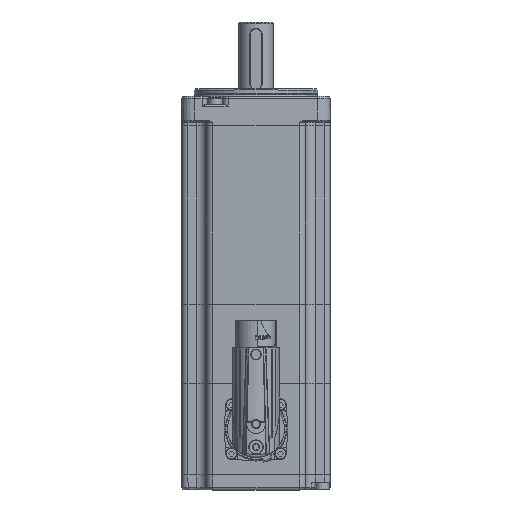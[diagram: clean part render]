
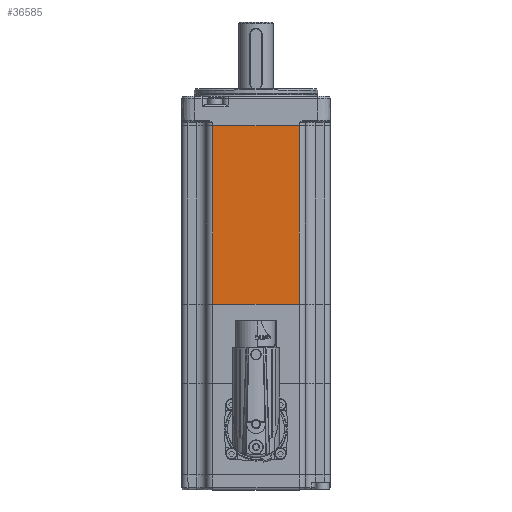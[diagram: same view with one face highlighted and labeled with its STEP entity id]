
A CAD part, top view. The second image highlights one B-rep face of the part: STEP entity #36585.
In plain terms, the highlighted planar face has unit normal (0, 0, 1).
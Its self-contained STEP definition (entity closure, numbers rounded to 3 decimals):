
#12101=LINE('',#63449,#14056);
#12102=LINE('',#63452,#14057);
#12103=LINE('',#63454,#14058);
#12104=LINE('',#63456,#14059);
#14056=VECTOR('',#46369,1000.);
#14057=VECTOR('',#46370,1000.);
#14058=VECTOR('',#46371,1000.);
#14059=VECTOR('',#46372,1000.);
#21696=ORIENTED_EDGE('',*,*,#25892,.T.);
#21697=ORIENTED_EDGE('',*,*,#25893,.T.);
#21698=ORIENTED_EDGE('',*,*,#25894,.T.);
#21699=ORIENTED_EDGE('',*,*,#25895,.T.);
#25892=EDGE_CURVE('',#28642,#28643,#12101,.F.);
#25893=EDGE_CURVE('',#28643,#28644,#12102,.T.);
#25894=EDGE_CURVE('',#28644,#28645,#12103,.T.);
#25895=EDGE_CURVE('',#28645,#28642,#12104,.T.);
#28642=VERTEX_POINT('',#63450);
#28643=VERTEX_POINT('',#63451);
#28644=VERTEX_POINT('',#63453);
#28645=VERTEX_POINT('',#63455);
#31822=EDGE_LOOP('',(#21696,#21697,#21698,#21699));
#34018=FACE_BOUND('',#31822,.T.);
#34965=PLANE('',#39267);
#36585=ADVANCED_FACE('',(#34018),#34965,.T.);
#39267=AXIS2_PLACEMENT_3D('',#63448,#46367,#46368);
#46367=DIRECTION('',(0.,0.,1.));
#46368=DIRECTION('',(0.,-1.,0.));
#46369=DIRECTION('',(-1.,0.,0.));
#46370=DIRECTION('',(0.,1.,0.));
#46371=DIRECTION('',(-1.,0.,0.));
#46372=DIRECTION('',(0.,-1.,0.));
#63448=CARTESIAN_POINT('',(-200.,30.,30.));
#63449=CARTESIAN_POINT('',(0.,-17.5,30.));
#63450=CARTESIAN_POINT('',(-73.,-17.5,30.));
#63451=CARTESIAN_POINT('',(-1.,-17.5,30.));
#63452=CARTESIAN_POINT('',(-1.,30.,30.));
#63453=CARTESIAN_POINT('',(-1.,17.5,30.));
#63454=CARTESIAN_POINT('',(-200.,17.5,30.));
#63455=CARTESIAN_POINT('',(-73.,17.5,30.));
#63456=CARTESIAN_POINT('',(-73.,30.,30.));
